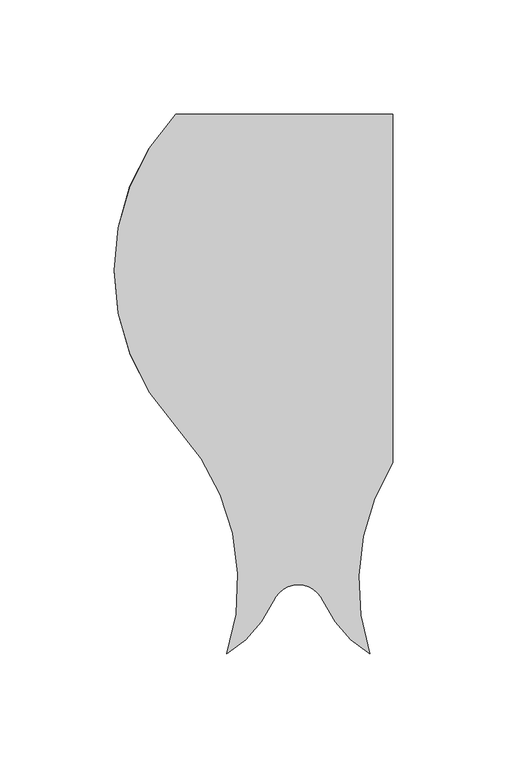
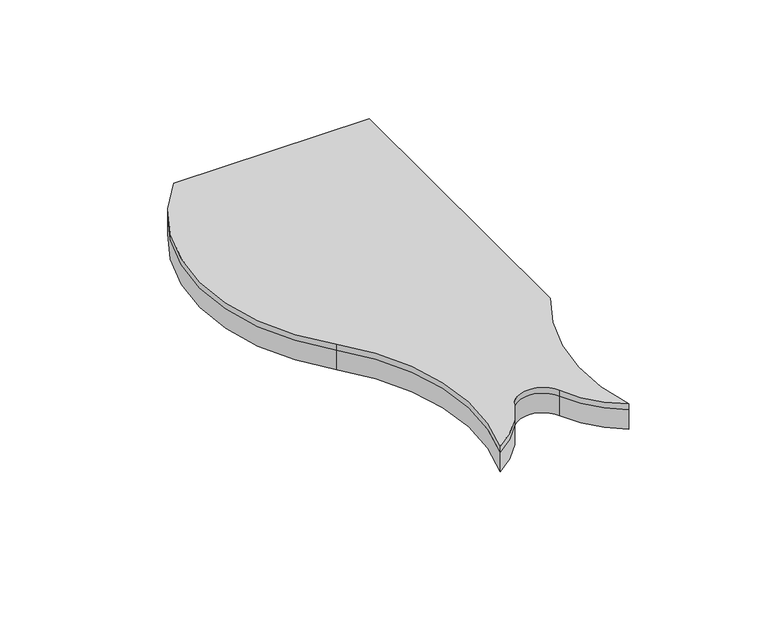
"""IFC4 building model written with IfcOpenShell, lengths in millimetres: proxy geometry, FilzFelt_Fish_Block : Fish Block."""

from ifc_helpers import new_model, si_unit, frame, origin, place, context, project, spatial, polyline, circle_curve, source, transform, mapped, element, save
from ifc_brep_helpers import plane_surface, cylinder_surface, revolved_surface, advanced_brep


def specialty_equipment_1b5a1322(model_context):
    return source(origin(), model_context, "Body", "AdvancedBrep", [
        advanced_brep(
        [(31.2619065, -168.1141956, 10.0210937), (11.0103348, -145.0347036, 10.0210937), (-11.0103348, -145.0347036, 10.0210937), (-31.2619065, -168.1141956, 10.0210937), (-53.5486457, -68.6120133, 10.0210937), (-53.7372709, 68.4105946, 10.0210937), (41.4010094, 68.4105946, 10.0210937), (41.4010094, -84.4515082, 10.0210937), (-53.5486457, -68.6120133, 12.9976563), (-31.2619065, -168.1141956, 12.9976563), (-11.0103348, -145.0347036, 12.9976563), (11.0103348, -145.0347036, 12.9976563), (31.2619065, -168.1141956, 12.9976563), (41.4010094, -84.4515082, 12.9976563), (41.4010094, 68.4105946, 12.9976563), (-53.7372709, 68.4105946, 12.9976563), (-80.7142226, 0.0, 12.9976563)],
        [
            (0, 1, circle_curve(frame((57.9263497, -124.2921115, 10.0210937), z_axis=(0.0, 0.0, -1.0), x_axis=(-1.0, 0.0, 0.0)), 51.2968574)),
            (1, 2, circle_curve(frame((0.0, -149.9026124, 10.0210937), z_axis=(0.0, 0.0, 1.0), x_axis=(-1.0, 0.0, 0.0)), 12.0384388)),
            (2, 3, circle_curve(frame((-57.9263497, -124.2921115, 10.0210937), z_axis=(0.0, 0.0, -1.0), x_axis=(-1.0, 0.0, 0.0)), 51.2968574)),
            (3, 4, circle_curve(frame((-126.6124317, -137.2240266, 10.0210937), z_axis=(0.0, 0.0, 1.0), x_axis=(-1.0, 0.0, 0.0)), 100.2293629)),
            (4, 5, circle_curve(frame((19.5151403, 0.0, 10.0210937), z_axis=(0.0, 0.0, -1.0), x_axis=(-1.0, 0.0, 0.0)), 100.2293629)),
            (5, 6),
            (6, 7),
            (7, 0, circle_curve(frame((126.6124317, -137.2240266, 10.0210937), z_axis=(0.0, 0.0, 1.0), x_axis=(-1.0, 0.0, 0.0)), 100.2293629)),
            (8, 9, circle_curve(frame((-126.6124317, -137.2240266, 12.9976563), z_axis=(0.0, 0.0, -1.0), x_axis=(-1.0, 0.0, 0.0)), 100.2293629)),
            (9, 10, circle_curve(frame((-57.9263497, -124.2921115, 12.9976563), z_axis=(0.0, 0.0, 1.0), x_axis=(-1.0, 0.0, 0.0)), 51.2968574)),
            (10, 11, circle_curve(frame((0.0, -149.9026124, 12.9976563), z_axis=(0.0, 0.0, -1.0), x_axis=(-1.0, 0.0, 0.0)), 12.0384388)),
            (11, 12, circle_curve(frame((57.9263497, -124.2921115, 12.9976563), z_axis=(0.0, 0.0, 1.0), x_axis=(-1.0, 0.0, 0.0)), 51.2968574)),
            (12, 13, circle_curve(frame((126.6124317, -137.2240266, 12.9976563), z_axis=(0.0, 0.0, -1.0), x_axis=(-1.0, 0.0, 0.0)), 100.2293629)),
            (13, 14),
            (14, 15),
            (15, 16, circle_curve(frame((19.5151403, 0.0, 12.9976563), z_axis=(0.0, 0.0, 1.0), x_axis=(-1.0, 0.0, 0.0)), 100.2293629)),
            (16, 8, circle_curve(frame((19.5151403, 0.0, 12.9976563), z_axis=(0.0, 0.0, 1.0), x_axis=(-1.0, 0.0, 0.0)), 100.2293629)),
            (12, 0),
            (7, 13),
            (11, 1),
            (10, 2),
            (9, 3),
            (8, 4),
            (15, 5),
            (14, 6),
        ],
        [
            plane_surface(frame((0.0, 0.0, 10.0210937), z_axis=(0.0, 0.0, -1.0), x_axis=(0.0, -1.0, 0.0))),
            plane_surface(frame((0.0, 0.0, 12.9976563), z_axis=(0.0, 0.0, 1.0), x_axis=(0.0, -1.0, 0.0))),
            revolved_surface(polyline([(26.383068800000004, -137.2240266, 12.9976563), (26.383068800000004, -137.2240266, 10.0210937)]), (126.6124317, -137.2240266, 10.0210937), (0.0, 0.0, 1.0)),
            cylinder_surface(frame((57.9263497, -124.2921115, 10.0210937), z_axis=(0.0, 0.0, -1.0), x_axis=(-1.0, 0.0, 0.0)), 51.2968574),
            revolved_surface(polyline([(-12.0384388, -149.9026124, 12.9976563), (-12.0384388, -149.9026124, 10.0210937)]), (0.0, -149.9026124, 10.0210937), (0.0, 0.0, 1.0)),
            cylinder_surface(frame((-57.9263497, -124.2921115, 10.0210937), z_axis=(0.0, 0.0, -1.0), x_axis=(-1.0, 0.0, 0.0)), 51.2968574),
            revolved_surface(polyline([(-226.84179460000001, -137.2240266, 12.9976563), (-226.84179460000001, -137.2240266, 10.0210937)]), (-126.6124317, -137.2240266, 10.0210937), (0.0, 0.0, 1.0)),
            cylinder_surface(frame((19.5151403, 0.0, 10.0210937), z_axis=(0.0, 0.0, -1.0), x_axis=(-1.0, 0.0, 0.0)), 100.2293629),
            plane_surface(frame((-112.4642226, 68.4105946, 12.9976562), z_axis=(0.0, 1.0, 0.0), x_axis=(-1.0, 0.0, 0.0))),
            plane_surface(frame((41.4010094, -199.8641956, 12.9976562), z_axis=(1.0, 0.0, 0.0), x_axis=(0.0, 0.0, 1.0))),
        ],
        [
            (0, [[1, 2, 3, 4, 5, 6, 7, 8]]),
            (1, [[9, 10, 11, 12, 13, 14, 15, 16, 17]]),
            (2, [[18, -8, 19, -13]]),
            (3, [[-1, -18, -12, 20]]),
            (4, [[-2, -20, -11, 21]]),
            (5, [[-3, -21, -10, 22]]),
            (6, [[-4, -22, -9, 23]]),
            (7, [[-23, -17, -16, 24, -5]]),
            (8, [[-24, -15, 25, -6]]),
            (9, [[-7, -25, -14, -19]]),
        ],
    ),
        advanced_brep(
        [(31.2619065, -168.1141956, 0.0), (11.0103348, -145.0347036, 0.0), (-11.0103348, -145.0347036, 0.0), (-31.2619065, -168.1141956, 0.0), (-53.5486457, -68.6120133, 0.0), (-80.7142226, 0.0, 0.0), (-53.7372709, 68.4105946, 0.0), (41.4010094, 68.4105946, 0.0), (41.4010094, -84.4515082, 0.0), (-53.5486457, -68.6120133, 10.0210937), (-31.2619065, -168.1141956, 10.0210937), (-11.0103348, -145.0347036, 10.0210937), (11.0103348, -145.0347036, 10.0210937), (31.2619065, -168.1141956, 10.0210937), (41.4010094, -84.4515082, 10.0210937), (41.4010094, 68.4105946, 10.0210937), (-53.7372709, 68.4105946, 10.0210937)],
        [
            (0, 1, circle_curve(frame((57.9263497, -124.2921115, 0.0), z_axis=(0.0, 0.0, -1.0), x_axis=(-1.0, 0.0, 0.0)), 51.2968574)),
            (1, 2, circle_curve(frame((0.0, -149.9026124, 0.0), z_axis=(0.0, 0.0, 1.0), x_axis=(-1.0, 0.0, 0.0)), 12.0384388)),
            (2, 3, circle_curve(frame((-57.9263497, -124.2921115, 0.0), z_axis=(0.0, 0.0, -1.0), x_axis=(-1.0, 0.0, 0.0)), 51.2968574)),
            (3, 4, circle_curve(frame((-126.6124317, -137.2240266, 0.0), z_axis=(0.0, 0.0, 1.0), x_axis=(-1.0, 0.0, 0.0)), 100.2293629)),
            (4, 5, circle_curve(frame((19.5151403, 0.0, 0.0), z_axis=(0.0, 0.0, -1.0), x_axis=(-1.0, 0.0, 0.0)), 100.2293629)),
            (5, 6, circle_curve(frame((19.5151403, 0.0, 0.0), z_axis=(0.0, 0.0, -1.0), x_axis=(-1.0, 0.0, 0.0)), 100.2293629)),
            (6, 7),
            (7, 8),
            (8, 0, circle_curve(frame((126.6124317, -137.2240266, 0.0), z_axis=(0.0, 0.0, 1.0), x_axis=(-1.0, 0.0, 0.0)), 100.2293629)),
            (9, 10, circle_curve(frame((-126.6124317, -137.2240266, 10.0210937), z_axis=(0.0, 0.0, -1.0), x_axis=(-1.0, 0.0, 0.0)), 100.2293629)),
            (10, 11, circle_curve(frame((-57.9263497, -124.2921115, 10.0210937), z_axis=(0.0, 0.0, 1.0), x_axis=(-1.0, 0.0, 0.0)), 51.2968574)),
            (11, 12, circle_curve(frame((0.0, -149.9026124, 10.0210937), z_axis=(0.0, 0.0, -1.0), x_axis=(-1.0, 0.0, 0.0)), 12.0384388)),
            (12, 13, circle_curve(frame((57.9263497, -124.2921115, 10.0210937), z_axis=(0.0, 0.0, 1.0), x_axis=(-1.0, 0.0, 0.0)), 51.2968574)),
            (13, 14, circle_curve(frame((126.6124317, -137.2240266, 10.0210937), z_axis=(0.0, 0.0, -1.0), x_axis=(-1.0, 0.0, 0.0)), 100.2293629)),
            (14, 15),
            (15, 16),
            (16, 9, circle_curve(frame((19.5151403, 0.0, 10.0210937), z_axis=(0.0, 0.0, 1.0), x_axis=(-1.0, 0.0, 0.0)), 100.2293629)),
            (0, 13),
            (12, 1),
            (11, 2),
            (10, 3),
            (9, 4),
            (16, 6),
            (8, 14),
            (15, 7),
        ],
        [
            plane_surface(frame((0.0, 0.0, 0.0), z_axis=(0.0, 0.0, -1.0), x_axis=(0.0, -1.0, 0.0))),
            plane_surface(frame((0.0, 0.0, 10.0210937), z_axis=(0.0, 0.0, 1.0), x_axis=(0.0, -1.0, 0.0))),
            cylinder_surface(frame((57.9263497, -124.2921115, 0.0), z_axis=(0.0, 0.0, -1.0), x_axis=(-1.0, 0.0, 0.0)), 51.2968574),
            revolved_surface(polyline([(-12.0384388, -149.9026124, 10.0210937), (-12.0384388, -149.9026124, 0.0)]), (0.0, -149.9026124, 0.0), (0.0, 0.0, 1.0)),
            cylinder_surface(frame((-57.9263497, -124.2921115, 0.0), z_axis=(0.0, 0.0, -1.0), x_axis=(-1.0, 0.0, 0.0)), 51.2968574),
            revolved_surface(polyline([(-226.84179460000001, -137.2240266, 10.0210937), (-226.84179460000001, -137.2240266, 0.0)]), (-126.6124317, -137.2240266, 0.0), (0.0, 0.0, 1.0)),
            cylinder_surface(frame((19.5151403, 0.0, 0.0), z_axis=(0.0, 0.0, -1.0), x_axis=(-1.0, 0.0, 0.0)), 100.2293629),
            revolved_surface(polyline([(26.383068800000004, -137.2240266, 10.0210937), (26.383068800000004, -137.2240266, 0.0)]), (126.6124317, -137.2240266, 0.0), (0.0, 0.0, 1.0)),
            plane_surface(frame((-112.4642226, 68.4105946, 12.9976562), z_axis=(0.0, 1.0, 0.0), x_axis=(-1.0, 0.0, 0.0))),
            plane_surface(frame((41.4010094, -199.8641956, 12.9976562), z_axis=(1.0, 0.0, 0.0), x_axis=(0.0, 0.0, 1.0))),
        ],
        [
            (0, [[1, 2, 3, 4, 5, 6, 7, 8, 9]]),
            (1, [[10, 11, 12, 13, 14, 15, 16, 17]]),
            (2, [[-1, 18, -13, 19]]),
            (3, [[-2, -19, -12, 20]]),
            (4, [[-3, -20, -11, 21]]),
            (5, [[-4, -21, -10, 22]]),
            (6, [[-22, -17, 23, -6, -5]]),
            (7, [[-18, -9, 24, -14]]),
            (8, [[-23, -16, 25, -7]]),
            (9, [[-8, -25, -15, -24]]),
        ],
    ),
    ])


if __name__ == "__main__":
    model = new_model("IFC4")
    model_context = context("Model", 3, world=origin())
    ifc_project = project(units=[si_unit("LENGTHUNIT", "METRE", prefix="MILLI")], contexts=[model_context])
    site = spatial("IfcSite", under=ifc_project)
    building = spatial("IfcBuilding", under=site)
    placement = place(None, origin())
    specialty_equipment_shape = specialty_equipment_1b5a1322(model_context)
    element("IfcBuildingElementProxy", 1, Name="FilzFelt_Fish_Block : Fish Block", ObjectType="FilzFelt_Fish_Block : Fish Block", at=placement, inside=building, context=model_context, shape_type="MappedRepresentation", body=[
        mapped(specialty_equipment_shape, transform((0.0, 0.0, 0.0), x_axis=(1.0, 0.0, 0.0), y_axis=(0.0, 1.0, 0.0), z_axis=(0.0, 0.0, 1.0))),
    ])
    save(model, "model.ifc")
